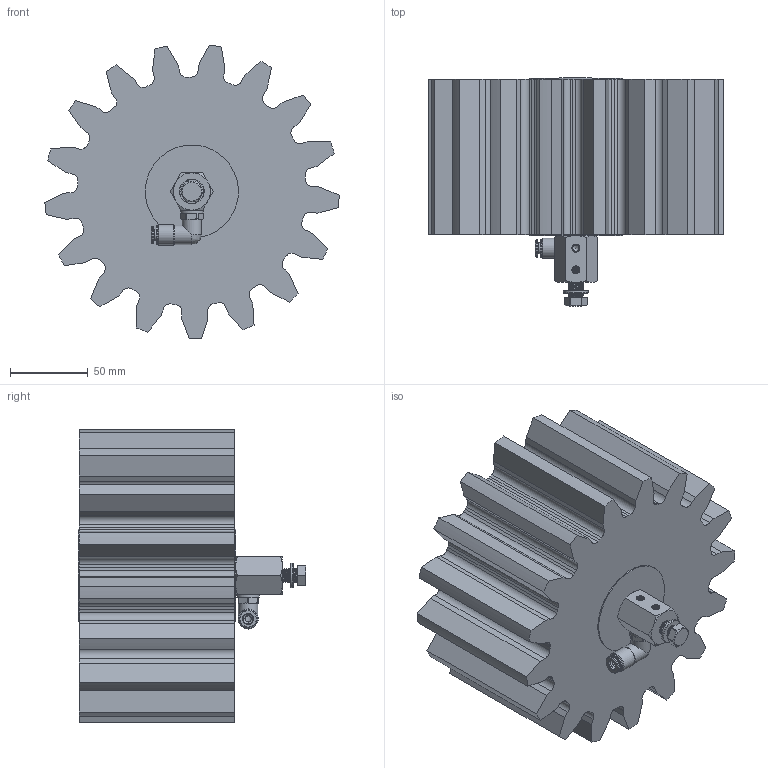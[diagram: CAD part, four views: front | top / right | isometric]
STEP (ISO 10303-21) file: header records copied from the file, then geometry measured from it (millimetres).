
FILE_DESCRIPTION (( 'STEP AP214' ), '1' );
FILE_NAME ('012_13_10_100_17BZ.STEP', '2026-04-08T10:20:22', ( '' ), ( '' ), 'SwSTEP 2.0', 'SolidWorks 2022', '' );
FILE_SCHEMA (( 'AUTOMOTIVE_DESIGN' ));
Length unit declared in the file: millimetre
Products named in the file (13): U_Scheibe_8,4; H202242_HDS022_6_M10X1_08.05.17(1); 012_13_10_100_17BZ; DR6-C_HDX_25.07.16_1; RH202242; 012_13b_02_winklige_Achse_M10_1; Schmierzahnrad_10_100_17G; OR 7.2X1.9_1; 12012_06_01_Scheibe-CRS-VA_60.SLDASM; RIVOLUZIONE_0_2; Scheibe_hinten_winklige Achse_groß; 012_06_Senkschraube; Schraube_M8_20
Assembly tree (12 placements, depth 3):
  012_13_10_100_17BZ
    012_13b_02_winklige_Achse_M10_1
    Schraube_M8_20
    U_Scheibe_8,4
    H202242_HDS022_6_M10X1_08.05.17(1)
      OR 7.2X1.9_1
      RH202242
      DR6-C_HDX_25.07.16_1
      RIVOLUZIONE_0_2
    12012_06_01_Scheibe-CRS-VA_60.SLDASM
    Scheibe_hinten_winklige Achse_groß
    Schmierzahnrad_10_100_17G
    012_06_Senkschraube
Bounding box: 189.7 x 146.9 x 189.34 mm (x, y, z)
Volume: 2253721.1 mm3; surface area: 170974.1 mm2
Topology: 11 solids, 11 shells, 729 faces, 1985 edges, 1315 vertices
Faces by surface type: plane 379, bspline 184, cylinder 106, cone 57, torus 3
Full cylindrical faces by diameter (mm): 4 x3, 6 x1, 6.2 x1, 6.3 x1, 6.5 x1, 6.6 x1, 7.2 x1, 8.4 x1, 8.5 x1, 9 x10, 9.9 x1, 10 x2, 10.1 x2, 10.3 x1, 11.5 x1, 11.7 x1, 12.5 x2, 13 x1, 14.5 x1, 16 x1, 60 x2
Entity records: 48167 total; most frequent: CARTESIAN_POINT 30642, ORIENTED_EDGE 3668, DIRECTION 2683, EDGE_CURVE 1834, VERTEX_POINT 1249, LINE 1079, VECTOR 1079, EDGE_LOOP 851
